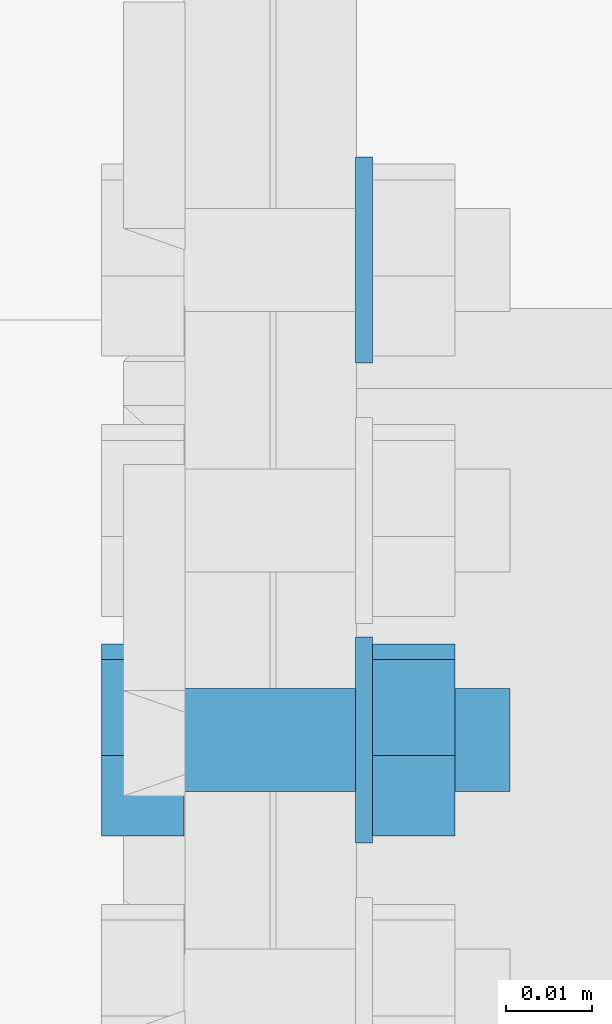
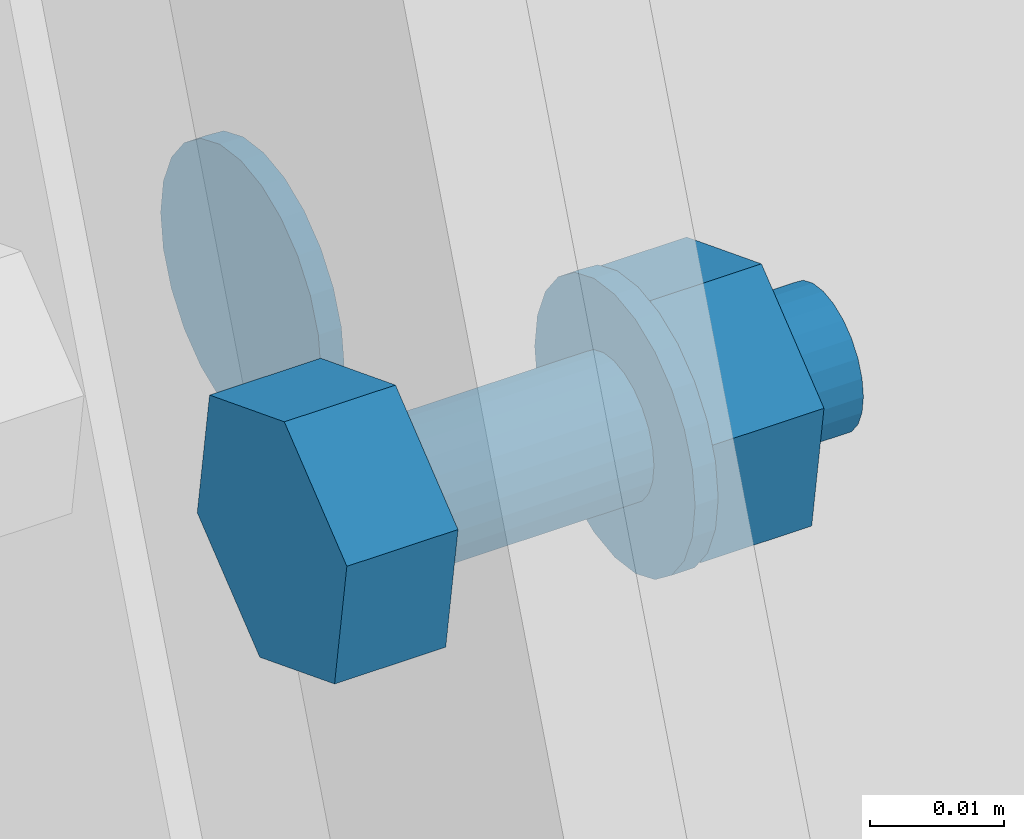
# One storey, part 63 of 72: 5 mechanical fasteners.
"""IFC4 building model written with IfcOpenShell, lengths in metres."""

from ifc_helpers import new_model, si_unit, frame, origin_with_axes, place, context, project, spatial, polyline, outline, extrude, type_object, element, save


model = new_model("IFC4")

# Units and contexts
model_context = context("Model", 3, precision=1e-05, world=origin_with_axes())
ifc_project = project(units=[si_unit("LENGTHUNIT", "METRE"), si_unit("AREAUNIT", "SQUARE_METRE"), si_unit("VOLUMEUNIT", "CUBIC_METRE"), si_unit("MASSUNIT", "GRAM", prefix="KILO"), si_unit("TIMEUNIT", "SECOND"), si_unit("PLANEANGLEUNIT", "RADIAN"), si_unit("SOLIDANGLEUNIT", "STERADIAN"), si_unit("THERMODYNAMICTEMPERATUREUNIT", "DEGREE_CELSIUS")], contexts=[model_context])

# Site, building, storey
placement_1 = place(None, origin_with_axes())
site = spatial("IfcSite", under=ifc_project, at=placement_1, Name="Italia", CompositionType="ELEMENT")
building = spatial("IfcBuilding", under=site, at=placement_1, Name="Uffici", CompositionType="ELEMENT")
storey = spatial("IfcBuildingStorey", under=building, at=placement_1, Name="Storey 0", CompositionType="ELEMENT", Elevation=0.0)

# Mechanical fasteners
mechanical_fastener_type_1 = type_object("IfcMechanicalFastenerType", Name="Collegamento -020_-019", PredefinedType="BOLT")
placement_2 = place(placement_1, origin_with_axes())
mechanical_fastener_1_placement = place(placement_2, origin_with_axes())
element("IfcMechanicalFastener", 1, at=mechanical_fastener_1_placement, inside=storey, type_object=mechanical_fastener_type_1, Name="Collegamento -020_-019", NominalDiameter=0.024, context=model_context, shape_type="SweptSolid", body=[
    extrude(outline(polyline([(0.0, 0.0), (-0.000408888, -0.00310564), (-0.00160789, -0.00600004), (-0.00351477, -0.00848532), (-0.00600004, -0.0103922), (-0.00889421, -0.011591), (-0.0120001, -0.0120001), (-0.015106, -0.011591), (-0.0180001, -0.0103922), (-0.0204854, -0.00848532), (-0.0223923, -0.00600004), (-0.0235913, -0.00310564), (-0.0240002, 0.0), (-0.0235913, 0.00310564), (-0.0223923, 0.00600004), (-0.0204854, 0.00848532), (-0.0180001, 0.0103922), (-0.015106, 0.011591), (-0.0120001, 0.0120001), (-0.00889421, 0.011591), (-0.00600004, 0.0103922), (-0.00351477, 0.00848532), (-0.00160789, 0.00600004), (-0.000408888, 0.00310564), (0.0, 0.0)])), frame((13.917, 3.26167, 5.90841), z_axis=(-1.0, 0.0, 0.0), x_axis=(0.0, -1.0, 0.0)), (0.0, 0.0, 1.0), 0.00199986),
])
mechanical_fastener_type_2 = type_object("IfcMechanicalFastenerType", Name="Collegamento -020_-019", PredefinedType="BOLT")
mechanical_fastener_2_placement = place(placement_2, origin_with_axes())
element("IfcMechanicalFastener", 2, at=mechanical_fastener_2_placement, inside=storey, type_object=mechanical_fastener_type_2, Name="Collegamento -020_-019", NominalDiameter=0.0119999, context=model_context, shape_type="SweptSolid", body=[
    extrude(outline(polyline([(0.0, 0.0), (-0.0111887, -0.00433779), (-0.0205393, 0.00318336), (-0.0187016, 0.0150418), (-0.00751281, 0.0193791), (0.00183797, 0.0118585), (0.0, 0.0)])), frame((13.895, 3.20838, 5.92258), z_axis=(-1.0, 0.0, 0.0), x_axis=(0.0, -1.0, 0.0)), (0.0, 0.0, 1.0), 0.00959969),
])
mechanical_fastener_type_3 = type_object("IfcMechanicalFastenerType", Name="Collegamento -020_-019", PredefinedType="BOLT")
mechanical_fastener_3_placement = place(placement_2, origin_with_axes())
element("IfcMechanicalFastener", 3, at=mechanical_fastener_3_placement, inside=storey, type_object=mechanical_fastener_type_3, Name="Collegamento -020_-019", NominalDiameter=0.012, context=model_context, shape_type="SweptSolid", body=[
    extrude(outline(polyline([(0.0, 0.0), (-0.000204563, -0.00155306), (-0.000803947, -0.00299978), (-0.00175738, -0.00424242), (-0.00300002, -0.00519609), (-0.00444722, -0.00579548), (-0.00600004, -0.00600004), (-0.00755286, -0.00579548), (-0.00900006, -0.00519609), (-0.0102427, -0.00424242), (-0.0111961, -0.00299978), (-0.0117955, -0.00155306), (-0.0120001, 0.0), (-0.0117955, 0.00155306), (-0.0111961, 0.00299978), (-0.0102427, 0.00424242), (-0.00900006, 0.00519609), (-0.00755286, 0.00579548), (-0.00600004, 0.00600004), (-0.00444722, 0.00579548), (-0.00300002, 0.00519609), (-0.00175738, 0.00424242), (-0.000803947, 0.00299978), (-0.000204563, 0.00155306), (0.0, 0.0)])), frame((13.933, 3.21173, 5.9301), z_axis=(-1.0, 0.0, 0.0), x_axis=(0.0, -1.0, 0.0)), (0.0, 0.0, 1.0), 0.0380001),
])
mechanical_fastener_type_4 = type_object("IfcMechanicalFastenerType", Name="Collegamento -020_-019", PredefinedType="BOLT")
mechanical_fastener_4_placement = place(placement_2, origin_with_axes())
element("IfcMechanicalFastener", 4, at=mechanical_fastener_4_placement, inside=storey, type_object=mechanical_fastener_type_4, Name="Collegamento -020_-019", NominalDiameter=0.0119999, context=model_context, shape_type="SweptSolid", body=[
    extrude(outline(polyline([(0.0, 0.0), (-0.0111887, -0.00433779), (-0.0205393, 0.00318336), (-0.0187016, 0.0150418), (-0.00751281, 0.0193791), (0.00183797, 0.0118585), (0.0, 0.0)])), frame((13.9266, 3.20838, 5.92258), z_axis=(-1.0, 0.0, 0.0), x_axis=(0.0, -1.0, 0.0)), (0.0, 0.0, 1.0), 0.00959969),
])
mechanical_fastener_type_5 = type_object("IfcMechanicalFastenerType", Name="Collegamento -020_-019", PredefinedType="BOLT")
mechanical_fastener_5_placement = place(placement_2, origin_with_axes())
element("IfcMechanicalFastener", 5, at=mechanical_fastener_5_placement, inside=storey, type_object=mechanical_fastener_type_5, Name="Collegamento -020_-019", NominalDiameter=0.024, context=model_context, shape_type="SweptSolid", body=[
    extrude(outline(polyline([(0.0, 0.0), (-0.000408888, -0.00310564), (-0.00160789, -0.00600004), (-0.00351477, -0.00848532), (-0.00600004, -0.0103922), (-0.00889421, -0.011591), (-0.0120001, -0.0120001), (-0.015106, -0.011591), (-0.0180001, -0.0103922), (-0.0204854, -0.00848532), (-0.0223923, -0.00600004), (-0.0235913, -0.00310564), (-0.0240002, 0.0), (-0.0235913, 0.00310564), (-0.0223923, 0.00600004), (-0.0204854, 0.00848532), (-0.0180001, 0.0103922), (-0.015106, 0.011591), (-0.0120001, 0.0120001), (-0.00889421, 0.011591), (-0.00600004, 0.0103922), (-0.00351477, 0.00848532), (-0.00160789, 0.00600004), (-0.000408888, 0.00310564), (0.0, 0.0)])), frame((13.917, 3.20573, 5.9301), z_axis=(-1.0, 0.0, 0.0), x_axis=(0.0, -1.0, 0.0)), (0.0, 0.0, 1.0), 0.00199986),
])

save(model, "model.ifc")
